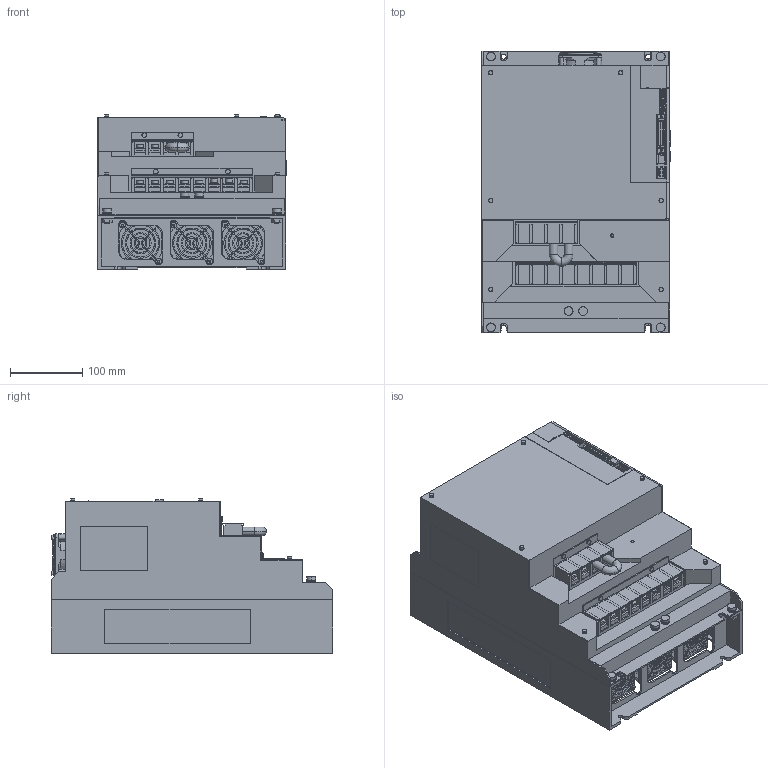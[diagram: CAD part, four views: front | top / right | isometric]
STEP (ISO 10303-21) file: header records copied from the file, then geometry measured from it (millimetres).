
FILE_DESCRIPTION (( 'STEP AP203' ), '1' );
FILE_NAME ('sgd7s_780a00a.STEP', '2015-09-18T08:33:50', ( '匠エンジニアリング山之内' ), ( 'TAKUMI-Engniaring' ), 'SwSTEP 2.0', 'SolidWorks 2006303', '' );
FILE_SCHEMA (( 'CONFIG_CONTROL_DESIGN' ));
Products named in the file (8): sgd7s_780a00a_cover3; sgd7s_780a00a_cover4; sgd7s_780a00a; sgd7s_780a00a_base; sgd7s_780a00a_cover; sgd7s_780a00a_cover2; sgd7s_780a00a_connector; sgd7s_780a00a_terminal
Assembly tree (8 placements, depth 2):
  sgd7s_780a00a
    sgd7s_780a00a_cover3
    sgd7s_780a00a_cover
    sgd7s_780a00a_cover2  x2
    sgd7s_780a00a_cover4
    sgd7s_780a00a_terminal
    sgd7s_780a00a_connector
    sgd7s_780a00a_base
Bounding box: 260.6 x 390 x 213.6 mm (x, y, z)
Volume: 12215468.2 mm3; surface area: 1162029.6 mm2
Topology: 8 solids, 8 shells, 2784 faces, 7847 edges, 5183 vertices
Faces by surface type: plane 2048, cylinder 663, cone 68, torus 4, sphere 1
Entity records: 90345 total; most frequent: CARTESIAN_POINT 16170, ORIENTED_EDGE 15586, DIRECTION 14913, EDGE_CURVE 7793, LINE 5965, VECTOR 5965, VERTEX_POINT 5147, AXIS2_PLACEMENT_3D 4474
